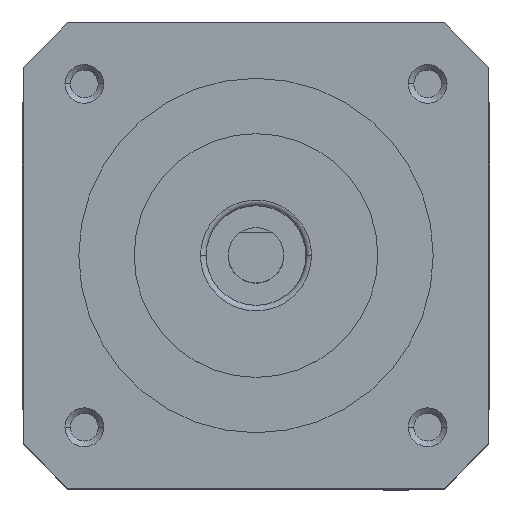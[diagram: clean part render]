
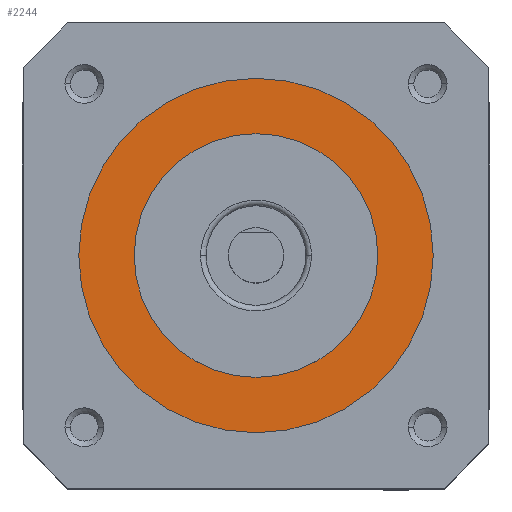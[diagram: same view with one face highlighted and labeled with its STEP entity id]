
A CAD part, top view. The second image highlights one B-rep face of the part: STEP entity #2244.
In plain terms, the highlighted planar face has unit normal (0, 0, 1).
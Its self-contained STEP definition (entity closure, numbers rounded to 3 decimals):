
#55 = DIRECTION ( 'NONE',  ( 1., 0., 0. ) ) ;
#134 = CARTESIAN_POINT ( 'NONE',  ( 0., 0., 7.7 ) ) ;
#666 = DIRECTION ( 'NONE',  ( 0., 0., 1. ) ) ;
#915 = DIRECTION ( 'NONE',  ( -1., 0., 0. ) ) ;
#1606 = VERTEX_POINT ( 'NONE', #3915 ) ;
#1863 = FACE_OUTER_BOUND ( 'NONE', #3358, .T. ) ;
#1947 = EDGE_CURVE ( 'NONE', #5570, #2970, #3044, .T. ) ;
#1955 = AXIS2_PLACEMENT_3D ( 'NONE', #4187, #2685, #6171 ) ;
#1966 = DIRECTION ( 'NONE',  ( -1., 0., 0. ) ) ;
#2059 = EDGE_CURVE ( 'NONE', #2970, #5570, #4214, .T. ) ;
#2244 = ADVANCED_FACE ( 'NONE', ( #3283, #1863 ), #4705, .T. ) ;
#2685 = DIRECTION ( 'NONE',  ( 0., 0., 1. ) ) ;
#2732 = CARTESIAN_POINT ( 'NONE',  ( -16., 0., 7.7 ) ) ;
#2852 = AXIS2_PLACEMENT_3D ( 'NONE', #134, #3632, #55 ) ;
#2970 = VERTEX_POINT ( 'NONE', #2732 ) ;
#3022 = AXIS2_PLACEMENT_3D ( 'NONE', #6337, #3057, #1966 ) ;
#3044 = CIRCLE ( 'NONE', #2852, 16. ) ;
#3057 = DIRECTION ( 'NONE',  ( 0., 0., -1. ) ) ;
#3283 = FACE_BOUND ( 'NONE', #3817, .T. ) ;
#3358 = EDGE_LOOP ( 'NONE', ( #5287, #3557 ) ) ;
#3557 = ORIENTED_EDGE ( 'NONE', *, *, #2059, .T. ) ;
#3632 = DIRECTION ( 'NONE',  ( 0., 0., 1. ) ) ;
#3817 = EDGE_LOOP ( 'NONE', ( #6230, #6447 ) ) ;
#3915 = CARTESIAN_POINT ( 'NONE',  ( 11., 0., 7.7 ) ) ;
#4001 = AXIS2_PLACEMENT_3D ( 'NONE', #6354, #4433, #915 ) ;
#4085 = CIRCLE ( 'NONE', #4001, 11. ) ;
#4186 = EDGE_CURVE ( 'NONE', #5425, #1606, #6193, .T. ) ;
#4187 = CARTESIAN_POINT ( 'NONE',  ( 0., 0., 7.7 ) ) ;
#4214 = CIRCLE ( 'NONE', #5418, 16. ) ;
#4433 = DIRECTION ( 'NONE',  ( 0., 0., -1. ) ) ;
#4705 = PLANE ( 'NONE',  #1955 ) ;
#5003 = CARTESIAN_POINT ( 'NONE',  ( 16., 0., 7.7 ) ) ;
#5287 = ORIENTED_EDGE ( 'NONE', *, *, #1947, .T. ) ;
#5328 = EDGE_CURVE ( 'NONE', #1606, #5425, #4085, .T. ) ;
#5418 = AXIS2_PLACEMENT_3D ( 'NONE', #5640, #666, #5593 ) ;
#5425 = VERTEX_POINT ( 'NONE', #5919 ) ;
#5570 = VERTEX_POINT ( 'NONE', #5003 ) ;
#5593 = DIRECTION ( 'NONE',  ( 1., 0., 0. ) ) ;
#5640 = CARTESIAN_POINT ( 'NONE',  ( 0., 0., 7.7 ) ) ;
#5919 = CARTESIAN_POINT ( 'NONE',  ( -11., 0., 7.7 ) ) ;
#6171 = DIRECTION ( 'NONE',  ( 1., 0., 0. ) ) ;
#6193 = CIRCLE ( 'NONE', #3022, 11. ) ;
#6230 = ORIENTED_EDGE ( 'NONE', *, *, #4186, .T. ) ;
#6337 = CARTESIAN_POINT ( 'NONE',  ( 0., 0., 7.7 ) ) ;
#6354 = CARTESIAN_POINT ( 'NONE',  ( 0., 0., 7.7 ) ) ;
#6447 = ORIENTED_EDGE ( 'NONE', *, *, #5328, .T. ) ;
